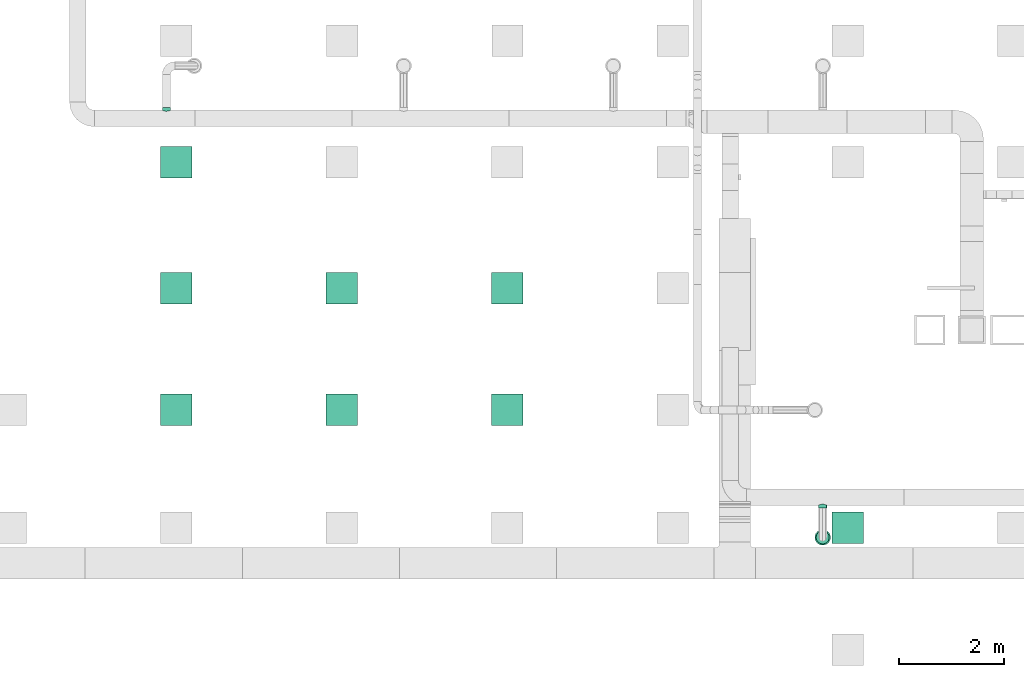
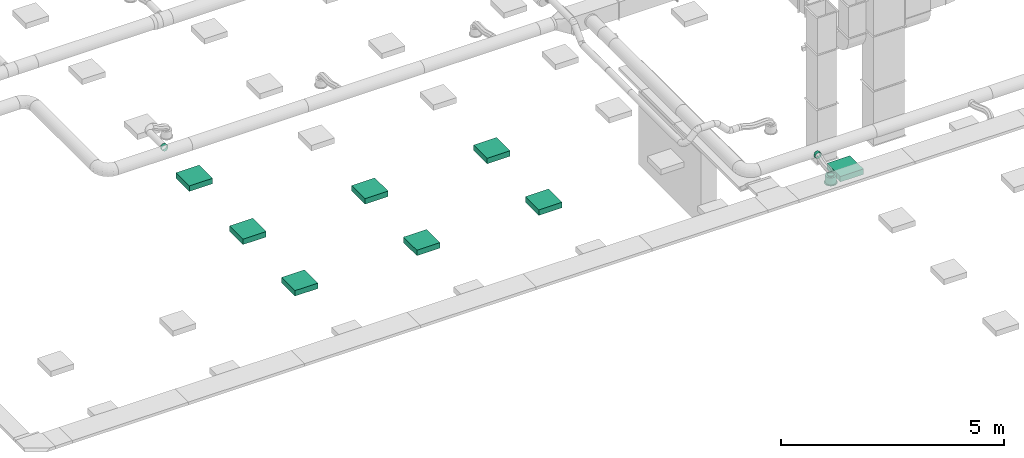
# One storey, part 21 of 119: 8 distribution elements, 2 flow segments, 1 flow terminal.
"""IFC2X3 building model written with IfcOpenShell, lengths in metres."""

from ifc_helpers import new_model, si_unit, direction, frame, frame_2d, origin, place, context, subcontext, project, spatial, rectangle, extrude, open_shell, surface_model, source, transform, mapped, element, save


model = new_model("IFC2X3")

# Units and contexts
model_context = context("Model", 3, precision=1e-05, world=origin(), true_north=direction((-0.4480736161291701, 0.8939966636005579)))
body_context = subcontext(model_context, "Body", "Model", "MODEL_VIEW")
ifc_project = project(units=[si_unit("LENGTHUNIT", "METRE"), si_unit("AREAUNIT", "SQUARE_METRE"), si_unit("VOLUMEUNIT", "CUBIC_METRE"), si_unit("PLANEANGLEUNIT", "RADIAN"), si_unit("THERMODYNAMICTEMPERATUREUNIT", "KELVIN"), si_unit("MASSUNIT", "GRAM", prefix="KILO"), si_unit("TIMEUNIT", "SECOND")], contexts=[model_context])

# Site, building, storey
site_placement = place(None, origin())
site = spatial("IfcSite", under=ifc_project, at=site_placement, Name="Site 1", CompositionType="ELEMENT")
building_placement = place(site_placement, origin())
building = spatial("IfcBuilding", under=site, at=building_placement, Name="Undefined", CompositionType="ELEMENT")
storey_placement = place(building_placement, frame((0.0, 0.0, 5.4)))
storey = spatial("IfcBuildingStorey", under=building, at=storey_placement, Name="R+1", CompositionType="ELEMENT", Elevation=5.4)

# Flow terminal
shared_shape_1 = source(origin(), body_context, "Body", "SurfaceModel", [
    surface_model("IfcFaceBasedSurfaceModel", [(0.0, 0.0, 0.0), (0.03915785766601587, 0.0, 0.0), (0.03915785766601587, 0.020000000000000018, 0.0), (3.552713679e-15, 0.020000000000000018, 0.0), (0.07698144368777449, 0.0, -0.010134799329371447), (0.07698144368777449, 0.020000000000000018, -0.010134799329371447), (0.11089314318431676, 0.0, -0.02971372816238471), (0.11089314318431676, 0.020000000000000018, -0.02971372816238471), (0.13858192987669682, 0.0, -0.05740251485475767), (0.13858192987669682, 0.020000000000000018, -0.05740251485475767), (0.15816085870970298, 0.0, -0.09131421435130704), (0.15816085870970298, 0.020000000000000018, -0.09131421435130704), (0.16829565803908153, 0.0, -0.12913780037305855), (0.16829565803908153, 0.020000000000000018, -0.12913780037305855), (0.16829565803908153, 0.0, -0.16829565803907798), (0.16829565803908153, 0.020000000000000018, -0.16829565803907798), (0.15816085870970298, 0.0, -0.20611924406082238), (0.15816085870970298, 0.020000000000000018, -0.20611924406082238), (0.13858192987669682, 0.0, -0.24003094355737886), (0.13858192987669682, 0.020000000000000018, -0.24003094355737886), (0.11089314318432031, 0.0, -0.2677197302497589), (0.11089314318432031, 0.020000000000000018, -0.2677197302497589), (0.07698144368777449, 0.0, -0.2872986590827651), (0.07698144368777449, 0.020000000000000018, -0.2872986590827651), (0.039157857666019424, 0.0, -0.29743345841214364), (0.039157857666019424, 0.020000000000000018, -0.29743345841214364), (3.552713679e-15, 0.0, -0.29743345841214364), (3.552713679e-15, 0.020000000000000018, -0.29743345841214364), (-0.03782358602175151, 0.0, -0.2872986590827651), (-0.03782358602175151, 0.020000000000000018, -0.2872986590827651), (-0.07173528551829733, 0.0, -0.2677197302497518), (-0.07173528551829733, 0.020000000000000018, -0.2677197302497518), (-0.0994240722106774, 0.0, -0.24003094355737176), (-0.0994240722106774, 0.020000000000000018, -0.24003094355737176), (-0.11900300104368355, 0.0, -0.2061192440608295), (-0.11900300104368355, 0.020000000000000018, -0.2061192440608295), (-0.1291378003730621, 0.0, -0.16829565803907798), (-0.1291378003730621, 0.020000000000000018, -0.16829565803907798), (-0.1291378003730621, 0.0, -0.12913780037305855), (-0.1291378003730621, 0.020000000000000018, -0.12913780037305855), (-0.11900300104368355, 0.0, -0.09131421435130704), (-0.11900300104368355, 0.020000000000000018, -0.09131421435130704), (-0.0994240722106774, 0.0, -0.05740251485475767), (-0.0994240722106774, 0.020000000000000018, -0.05740251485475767), (-0.07173528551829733, 0.0, -0.029713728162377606), (-0.07173528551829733, 0.020000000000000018, -0.029713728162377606), (-0.03782358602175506, 0.0, -0.010134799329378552), (-0.03782358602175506, 0.020000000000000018, -0.010134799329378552), (0.019578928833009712, 0.0, -0.14871672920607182), (0.019578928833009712, 0.020000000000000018, -0.14871672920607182), (0.003263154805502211, 0.020000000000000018, -0.02478612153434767), (0.035894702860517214, 0.020000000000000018, -0.02478612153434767), (0.035894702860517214, 0.20999999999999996, -0.02478612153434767), (0.003263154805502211, 0.20999999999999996, -0.02478612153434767), (0.06741435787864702, 0.020000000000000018, -0.033231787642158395), (0.06741435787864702, 0.20999999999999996, -0.033231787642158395), (0.0956741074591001, 0.020000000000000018, -0.04954756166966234), (0.0956741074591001, 0.20999999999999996, -0.04954756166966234), (0.11874809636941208, 0.020000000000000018, -0.07262155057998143), (0.11874809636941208, 0.20999999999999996, -0.07262155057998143), (0.13506387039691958, 0.020000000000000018, -0.10088130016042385), (0.13506387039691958, 0.20999999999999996, -0.10088130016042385), (0.1435095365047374, 0.020000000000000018, -0.13240095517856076), (0.1435095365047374, 0.20999999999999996, -0.13240095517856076), (0.1435095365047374, 0.020000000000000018, -0.16503250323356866), (0.1435095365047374, 0.20999999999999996, -0.16503250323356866), (0.13506387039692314, 0.020000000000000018, -0.19655215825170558), (0.13506387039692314, 0.20999999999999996, -0.19655215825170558), (0.11874809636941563, 0.020000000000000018, -0.2248119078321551), (0.11874809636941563, 0.20999999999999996, -0.2248119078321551), (0.09567410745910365, 0.020000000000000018, -0.24788589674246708), (0.09567410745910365, 0.20999999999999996, -0.24788589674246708), (0.06741435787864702, 0.020000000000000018, -0.26420167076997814), (0.06741435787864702, 0.20999999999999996, -0.26420167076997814), (0.035894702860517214, 0.020000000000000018, -0.27264733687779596), (0.035894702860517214, 0.20999999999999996, -0.27264733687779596), (0.0032631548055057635, 0.020000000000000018, -0.27264733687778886), (0.0032631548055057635, 0.20999999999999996, -0.27264733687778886), (-0.028256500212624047, 0.020000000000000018, -0.26420167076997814), (-0.028256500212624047, 0.20999999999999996, -0.26420167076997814), (-0.05651624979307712, 0.020000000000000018, -0.2478858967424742), (-0.05651624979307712, 0.20999999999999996, -0.2478858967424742), (-0.07959023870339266, 0.020000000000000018, -0.2248119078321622), (-0.07959023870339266, 0.20999999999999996, -0.2248119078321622), (-0.09590601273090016, 0.020000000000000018, -0.19655215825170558), (-0.09590601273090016, 0.20999999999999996, -0.19655215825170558), (-0.10435167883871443, 0.020000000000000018, -0.16503250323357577), (-0.10435167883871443, 0.20999999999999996, -0.16503250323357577), (-0.10435167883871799, 0.020000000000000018, -0.13240095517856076), (-0.10435167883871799, 0.20999999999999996, -0.13240095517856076), (-0.09590601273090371, 0.020000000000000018, -0.10088130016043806), (-0.09590601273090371, 0.20999999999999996, -0.10088130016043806), (-0.07959023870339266, 0.020000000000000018, -0.07262155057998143), (-0.07959023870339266, 0.20999999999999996, -0.07262155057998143), (-0.056516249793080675, 0.020000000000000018, -0.04954756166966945), (-0.056516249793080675, 0.20999999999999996, -0.04954756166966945), (-0.028256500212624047, 0.020000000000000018, -0.033231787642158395), (-0.028256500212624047, 0.20999999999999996, -0.033231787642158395), (0.019578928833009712, 0.20999999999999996, -0.14871672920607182), (0.009136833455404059, 0.20999999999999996, -0.06940114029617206), (0.030021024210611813, 0.20999999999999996, -0.06940114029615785), (0.030021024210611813, 0.22999999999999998, -0.06940114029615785), (0.009136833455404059, 0.22999999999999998, -0.06940114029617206), (0.05019360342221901, 0.20999999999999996, -0.07480636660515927), (0.05019360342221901, 0.22999999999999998, -0.07480636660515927), (0.06827984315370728, 0.20999999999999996, -0.08524846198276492), (0.06827984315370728, 0.22999999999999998, -0.08524846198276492), (0.0830471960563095, 0.20999999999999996, -0.10001581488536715), (0.0830471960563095, 0.22999999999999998, -0.10001581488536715), (0.0934892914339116, 0.20999999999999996, -0.11810205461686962), (0.0934892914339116, 0.22999999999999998, -0.11810205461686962), (0.09889451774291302, 0.20999999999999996, -0.13827463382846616), (0.09889451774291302, 0.22999999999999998, -0.13827463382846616), (0.09889451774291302, 0.20999999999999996, -0.15915882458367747), (0.09889451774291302, 0.22999999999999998, -0.15915882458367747), (0.09348929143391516, 0.20999999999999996, -0.179331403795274), (0.09348929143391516, 0.22999999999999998, -0.179331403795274), (0.0830471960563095, 0.20999999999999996, -0.19741764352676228), (0.0830471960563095, 0.22999999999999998, -0.19741764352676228), (0.06827984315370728, 0.20999999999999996, -0.2121849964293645), (0.06827984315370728, 0.22999999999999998, -0.2121849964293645), (0.05019360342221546, 0.20999999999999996, -0.22262709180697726), (0.05019360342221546, 0.22999999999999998, -0.22262709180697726), (0.030021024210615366, 0.20999999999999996, -0.22803231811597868), (0.030021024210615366, 0.22999999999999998, -0.22803231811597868), (0.009136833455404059, 0.20999999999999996, -0.22803231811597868), (0.009136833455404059, 0.22999999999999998, -0.22803231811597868), (-0.011035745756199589, 0.20999999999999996, -0.22262709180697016), (-0.011035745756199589, 0.22999999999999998, -0.22262709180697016), (-0.0291219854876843, 0.20999999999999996, -0.2121849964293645), (-0.0291219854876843, 0.22999999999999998, -0.2121849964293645), (-0.043889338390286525, 0.20999999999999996, -0.19741764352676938), (-0.043889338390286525, 0.22999999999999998, -0.19741764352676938), (-0.05433143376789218, 0.20999999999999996, -0.17933140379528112), (-0.05433143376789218, 0.22999999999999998, -0.17933140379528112), (-0.05973666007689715, 0.20999999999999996, -0.15915882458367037), (-0.05973666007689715, 0.22999999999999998, -0.15915882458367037), (-0.0597366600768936, 0.20999999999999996, -0.13827463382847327), (-0.0597366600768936, 0.22999999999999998, -0.13827463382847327), (-0.05433143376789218, 0.20999999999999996, -0.11810205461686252), (-0.05433143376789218, 0.22999999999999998, -0.11810205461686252), (-0.043889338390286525, 0.20999999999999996, -0.10001581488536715), (-0.043889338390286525, 0.22999999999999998, -0.10001581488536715), (-0.02912198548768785, 0.20999999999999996, -0.08524846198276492), (-0.02912198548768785, 0.22999999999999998, -0.08524846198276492), (-0.011035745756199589, 0.20999999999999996, -0.07480636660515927), (-0.011035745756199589, 0.22999999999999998, -0.07480636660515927)], [open_shell([[[0, 1, 2, 3]], [[1, 4, 5, 2]], [[4, 6, 7, 5]], [[6, 8, 9, 7]], [[8, 10, 11, 9]], [[10, 12, 13, 11]], [[12, 14, 15, 13]], [[14, 16, 17, 15]], [[16, 18, 19, 17]], [[18, 20, 21, 19]], [[20, 22, 23, 21]], [[22, 24, 25, 23]], [[24, 26, 27, 25]], [[26, 28, 29, 27]], [[28, 30, 31, 29]], [[30, 32, 33, 31]], [[32, 34, 35, 33]], [[34, 36, 37, 35]], [[36, 38, 39, 37]], [[38, 40, 41, 39]], [[40, 42, 43, 41]], [[42, 44, 45, 43]], [[44, 46, 47, 45]], [[46, 0, 3, 47]], [[48, 1, 0]], [[48, 4, 1]], [[48, 6, 4]], [[48, 8, 6]], [[48, 10, 8]], [[48, 12, 10]], [[48, 14, 12]], [[48, 16, 14]], [[48, 18, 16]], [[48, 20, 18]], [[48, 22, 20]], [[48, 24, 22]], [[48, 26, 24]], [[48, 28, 26]], [[48, 30, 28]], [[48, 32, 30]], [[48, 34, 32]], [[48, 36, 34]], [[48, 38, 36]], [[48, 40, 38]], [[48, 42, 40]], [[48, 44, 42]], [[48, 46, 44]], [[48, 0, 46]], [[49, 47, 3]], [[49, 45, 47]], [[49, 43, 45]], [[49, 41, 43]], [[49, 39, 41]], [[49, 37, 39]], [[49, 35, 37]], [[49, 33, 35]], [[49, 31, 33]], [[49, 29, 31]], [[49, 27, 29]], [[49, 25, 27]], [[49, 23, 25]], [[49, 21, 23]], [[49, 19, 21]], [[49, 17, 19]], [[49, 15, 17]], [[49, 13, 15]], [[49, 11, 13]], [[49, 9, 11]], [[49, 7, 9]], [[49, 5, 7]], [[49, 2, 5]], [[49, 3, 2]], [[50, 51, 52, 53]], [[51, 54, 55, 52]], [[54, 56, 57, 55]], [[56, 58, 59, 57]], [[58, 60, 61, 59]], [[60, 62, 63, 61]], [[62, 64, 65, 63]], [[64, 66, 67, 65]], [[66, 68, 69, 67]], [[68, 70, 71, 69]], [[70, 72, 73, 71]], [[72, 74, 75, 73]], [[74, 76, 77, 75]], [[76, 78, 79, 77]], [[78, 80, 81, 79]], [[80, 82, 83, 81]], [[82, 84, 85, 83]], [[84, 86, 87, 85]], [[86, 88, 89, 87]], [[88, 90, 91, 89]], [[90, 92, 93, 91]], [[92, 94, 95, 93]], [[94, 96, 97, 95]], [[96, 50, 53, 97]], [[49, 51, 50]], [[49, 54, 51]], [[49, 56, 54]], [[49, 58, 56]], [[49, 60, 58]], [[49, 62, 60]], [[49, 64, 62]], [[49, 66, 64]], [[49, 68, 66]], [[49, 70, 68]], [[49, 72, 70]], [[49, 74, 72]], [[49, 76, 74]], [[49, 78, 76]], [[49, 80, 78]], [[49, 82, 80]], [[49, 84, 82]], [[49, 86, 84]], [[49, 88, 86]], [[49, 90, 88]], [[49, 92, 90]], [[49, 94, 92]], [[49, 96, 94]], [[49, 50, 96]], [[98, 97, 53]], [[98, 95, 97]], [[98, 93, 95]], [[98, 91, 93]], [[98, 89, 91]], [[98, 87, 89]], [[98, 85, 87]], [[98, 83, 85]], [[98, 81, 83]], [[98, 79, 81]], [[98, 77, 79]], [[98, 75, 77]], [[98, 73, 75]], [[98, 71, 73]], [[98, 69, 71]], [[98, 67, 69]], [[98, 65, 67]], [[98, 63, 65]], [[98, 61, 63]], [[98, 59, 61]], [[98, 57, 59]], [[98, 55, 57]], [[98, 52, 55]], [[98, 53, 52]], [[99, 100, 101, 102]], [[100, 103, 104, 101]], [[103, 105, 106, 104]], [[105, 107, 108, 106]], [[107, 109, 110, 108]], [[109, 111, 112, 110]], [[111, 113, 114, 112]], [[113, 115, 116, 114]], [[115, 117, 118, 116]], [[117, 119, 120, 118]], [[119, 121, 122, 120]], [[121, 123, 124, 122]], [[123, 125, 126, 124]], [[125, 127, 128, 126]], [[127, 129, 130, 128]], [[129, 131, 132, 130]], [[131, 133, 134, 132]], [[133, 135, 136, 134]], [[135, 137, 138, 136]], [[137, 139, 140, 138]], [[139, 141, 142, 140]], [[141, 143, 144, 142]], [[143, 145, 146, 144]], [[145, 99, 102, 146]]])]),
])
flow_terminal_placement = place(storey_placement, origin())
element("IfcFlowTerminal", 1, at=flow_terminal_placement, inside=storey, Name="Air diffuseur - bouche", ObjectType="Air diffuseur - bouche", context=body_context, shape_type="MappedRepresentation", body=[
    mapped(shared_shape_1, transform((48.290000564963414, 8.10499861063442, 2.38), x_axis=(-0.9914448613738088, -0.13052619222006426, 0.0), y_axis=(0.0, 0.0, 1.0), z_axis=(-0.13052619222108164, 0.9914448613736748, 0.0))),
])

# Flow segments
shared_shape_2 = source(origin(), body_context, "Body", "SurfaceModel", [
    surface_model("IfcFaceBasedSurfaceModel", [(0.0013669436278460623, 0.02088419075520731, 0.0), (0.0, 0.0, 0.0), (0.05136694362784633, -8.8817842e-16, 0.0), (0.05136694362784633, 0.02088419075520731, 0.0), (-0.0037970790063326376, -0.020172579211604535, -0.005405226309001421), (0.05136694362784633, -0.020172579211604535, -0.005405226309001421), (-0.009142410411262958, -0.03825881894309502, -0.015847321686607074), (0.05136694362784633, -0.03825881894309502, -0.015847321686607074), (-0.014689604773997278, -0.05302617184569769, -0.030614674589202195), (0.05136694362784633, -0.05302617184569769, -0.030614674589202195), (-0.018892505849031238, -0.06346826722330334, -0.04870091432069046), (0.05136694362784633, -0.06346826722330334, -0.04870091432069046), (-0.020463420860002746, -0.06887349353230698, -0.0688734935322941), (0.05136694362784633, -0.06887349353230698, -0.0688734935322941), (-0.018892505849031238, -0.06887349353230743, -0.08975768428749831), (0.05136694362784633, -0.06887349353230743, -0.08975768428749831), (-0.014689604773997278, -0.06346826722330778, -0.10993026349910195), (0.05136694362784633, -0.06346826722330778, -0.10993026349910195), (-0.009142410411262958, -0.05302617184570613, -0.12801650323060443), (0.05136694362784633, -0.05302617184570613, -0.12801650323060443), (-0.0037970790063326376, -0.03825881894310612, -0.14278385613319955), (0.05136694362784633, -0.03825881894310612, -0.14278385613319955), (0.0, -0.020172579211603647, -0.15322595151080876), (0.05136694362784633, -0.020172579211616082, -0.1532259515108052), (0.0013669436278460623, -1.3766765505e-14, -0.15863117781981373), (0.05136694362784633, -1.3766765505e-14, -0.15863117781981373), (0.0, 0.020884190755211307, -0.15863117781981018), (0.05136694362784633, 0.02088419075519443, -0.15863117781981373), (-0.0037970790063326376, 0.041056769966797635, -0.1532259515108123), (0.05136694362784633, 0.041056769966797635, -0.1532259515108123), (-0.009142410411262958, 0.05914300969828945, -0.14278385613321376), (0.05136694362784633, 0.05914300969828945, -0.14278385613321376), (-0.014689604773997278, 0.07391036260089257, -0.12801650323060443), (0.05136694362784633, 0.07391036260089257, -0.12801650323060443), (-0.018892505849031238, 0.08435245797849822, -0.10993026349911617), (0.05136694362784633, 0.08435245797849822, -0.10993026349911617), (-0.020463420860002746, 0.08975768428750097, -0.08975768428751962), (0.05136694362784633, 0.08975768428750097, -0.08975768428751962), (-0.018892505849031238, 0.0897576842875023, -0.06887349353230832), (0.05136694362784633, 0.0897576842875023, -0.06887349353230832), (-0.014689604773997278, 0.08435245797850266, -0.04870091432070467), (0.05136694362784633, 0.08435245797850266, -0.04870091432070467), (-0.009142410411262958, 0.07391036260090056, -0.030614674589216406), (0.05136694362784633, 0.07391036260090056, -0.030614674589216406), (-0.0037970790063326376, 0.05914300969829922, -0.01584732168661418), (0.05136694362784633, 0.05914300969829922, -0.01584732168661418), (0.0, 0.04105676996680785, -0.005405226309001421), (0.05136694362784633, 0.04105676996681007, -0.005405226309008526)], [open_shell([[[0, 1, 2, 3]], [[1, 4, 5, 2]], [[4, 6, 7, 5]], [[6, 8, 9, 7]], [[8, 10, 11, 9]], [[10, 12, 13, 11]], [[12, 14, 15, 13]], [[14, 16, 17, 15]], [[16, 18, 19, 17]], [[18, 20, 21, 19]], [[20, 22, 23, 21]], [[22, 24, 25, 23]], [[24, 26, 27, 25]], [[26, 28, 29, 27]], [[28, 30, 31, 29]], [[30, 32, 33, 31]], [[32, 34, 35, 33]], [[34, 36, 37, 35]], [[36, 38, 39, 37]], [[38, 40, 41, 39]], [[40, 42, 43, 41]], [[42, 44, 45, 43]], [[44, 46, 47, 45]], [[46, 0, 3, 47]]])]),
])
flow_segment_1_placement = place(storey_placement, origin())
element("IfcFlowSegment", 2, at=flow_segment_1_placement, inside=storey, Name="Piquage équerre circulaire", ObjectType="Piquage équerre circulaire", context=body_context, shape_type="MappedRepresentation", body=[
    mapped(shared_shape_2, transform((48.36727463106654, 8.568866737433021, 2.7957055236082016), x_axis=(0.0, -1.0, 0.0), y_axis=(0.130526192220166, 0.0, -0.9914448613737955), z_axis=(0.9914448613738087, 0.0, 0.13052619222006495))),
])
flow_segment_2_placement = place(storey_placement, origin())
element("IfcFlowSegment", 3, at=flow_segment_2_placement, inside=storey, Name="Piquage équerre circulaire", ObjectType="Piquage équerre circulaire", context=body_context, shape_type="MappedRepresentation", body=[
    mapped(shared_shape_2, transform((35.686584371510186, 16.108427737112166, 2.7957055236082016), x_axis=(0.0, 1.0, 0.0), y_axis=(-0.13052619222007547, 0.0, -0.9914448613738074), z_axis=(-0.9914448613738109, 0.0, 0.1305261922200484))),
])

# Distribution elements
distribution_element_1_placement = place(storey_placement, origin())
element("IfcDistributionElement", 4, at=distribution_element_1_placement, inside=storey, Name="Decken-Rechteckleuchte mit Rahmen AP", ObjectType="Decken-Rechteckleuchte mit Rahmen AP", context=body_context, shape_type="SweptSolid", body=[
    extrude(rectangle(XDim=0.6000000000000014, YDim=0.6000000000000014, at=frame_2d((3.552713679e-15, 0.0), x_axis=(0.0, 1.0))), frame((39.109652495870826, 12.712499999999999, 2.5500000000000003), z_axis=(0.0, 0.0, -1.0), x_axis=(1.0, 0.0, 0.0)), (0.0, 0.0, 1.0), 0.15),
])
distribution_element_2_placement = place(storey_placement, origin())
element("IfcDistributionElement", 5, at=distribution_element_2_placement, inside=storey, Name="Decken-Rechteckleuchte mit Rahmen AP", ObjectType="Decken-Rechteckleuchte mit Rahmen AP", context=body_context, shape_type="SweptSolid", body=[
    extrude(rectangle(XDim=0.6000000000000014, YDim=0.6000000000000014, at=frame_2d((3.552713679e-15, 0.0), x_axis=(0.0, 1.0))), frame((35.95181062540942, 15.1125, 2.5500000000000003), z_axis=(0.0, 0.0, -1.0), x_axis=(1.0, 0.0, 0.0)), (0.0, 0.0, 1.0), 0.15),
])
distribution_element_3_placement = place(storey_placement, origin())
element("IfcDistributionElement", 6, at=distribution_element_3_placement, inside=storey, Name="Decken-Rechteckleuchte mit Rahmen AP", ObjectType="Decken-Rechteckleuchte mit Rahmen AP", context=body_context, shape_type="SweptSolid", body=[
    extrude(rectangle(XDim=0.6000000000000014, YDim=0.6000000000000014, at=frame_2d((3.552713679e-15, 0.0), x_axis=(0.0, 1.0))), frame((48.76792114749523, 8.1375, 2.5500000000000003), z_axis=(0.0, 0.0, -1.0), x_axis=(1.0, 0.0, 0.0)), (0.0, 0.0, 1.0), 0.15),
])
distribution_element_4_placement = place(storey_placement, origin())
element("IfcDistributionElement", 7, at=distribution_element_4_placement, inside=storey, Name="Decken-Rechteckleuchte mit Rahmen AP", ObjectType="Decken-Rechteckleuchte mit Rahmen AP", context=body_context, shape_type="SweptSolid", body=[
    extrude(rectangle(XDim=0.6000000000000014, YDim=0.6000000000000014, at=frame_2d((3.552713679e-15, 0.0), x_axis=(0.0, 1.0))), frame((42.26749479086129, 12.712499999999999, 2.5500000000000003), z_axis=(0.0, 0.0, -1.0), x_axis=(1.0, 0.0, 0.0)), (0.0, 0.0, 1.0), 0.15),
])
distribution_element_5_placement = place(storey_placement, origin())
element("IfcDistributionElement", 8, at=distribution_element_5_placement, inside=storey, Name="Decken-Rechteckleuchte mit Rahmen AP", ObjectType="Decken-Rechteckleuchte mit Rahmen AP", context=body_context, shape_type="SweptSolid", body=[
    extrude(rectangle(XDim=0.6000000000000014, YDim=0.6000000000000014, at=frame_2d((3.552713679e-15, 0.0), x_axis=(0.0, 1.0))), frame((39.10965258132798, 10.3875, 2.5500000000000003), z_axis=(0.0, 0.0, -1.0), x_axis=(1.0, 0.0, 0.0)), (0.0, 0.0, 1.0), 0.15),
])
distribution_element_6_placement = place(storey_placement, origin())
element("IfcDistributionElement", 9, at=distribution_element_6_placement, inside=storey, Name="Decken-Rechteckleuchte mit Rahmen AP", ObjectType="Decken-Rechteckleuchte mit Rahmen AP", context=body_context, shape_type="SweptSolid", body=[
    extrude(rectangle(XDim=0.6000000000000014, YDim=0.6000000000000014, at=frame_2d((3.552713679e-15, 0.0), x_axis=(0.0, 1.0))), frame((35.95181062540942, 10.3875, 2.5500000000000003), z_axis=(0.0, 0.0, -1.0), x_axis=(1.0, 0.0, 0.0)), (0.0, 0.0, 1.0), 0.15),
])
distribution_element_7_placement = place(storey_placement, origin())
element("IfcDistributionElement", 10, at=distribution_element_7_placement, inside=storey, Name="Decken-Rechteckleuchte mit Rahmen AP", ObjectType="Decken-Rechteckleuchte mit Rahmen AP", context=body_context, shape_type="SweptSolid", body=[
    extrude(rectangle(XDim=0.6000000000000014, YDim=0.6000000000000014, at=frame_2d((3.552713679e-15, 0.0), x_axis=(0.0, 1.0))), frame((42.267494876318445, 10.3875, 2.5500000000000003), z_axis=(0.0, 0.0, -1.0), x_axis=(1.0, 0.0, 0.0)), (0.0, 0.0, 1.0), 0.15),
])
distribution_element_8_placement = place(storey_placement, origin())
element("IfcDistributionElement", 11, at=distribution_element_8_placement, inside=storey, Name="Decken-Rechteckleuchte mit Rahmen AP", ObjectType="Decken-Rechteckleuchte mit Rahmen AP", context=body_context, shape_type="SweptSolid", body=[
    extrude(rectangle(XDim=0.6000000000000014, YDim=0.6000000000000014, at=frame_2d((3.552713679e-15, 0.0), x_axis=(0.0, 1.0))), frame((35.95181062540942, 12.712499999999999, 2.5500000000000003), z_axis=(0.0, 0.0, -1.0), x_axis=(1.0, 0.0, 0.0)), (0.0, 0.0, 1.0), 0.15),
])

save(model, "model.ifc")
